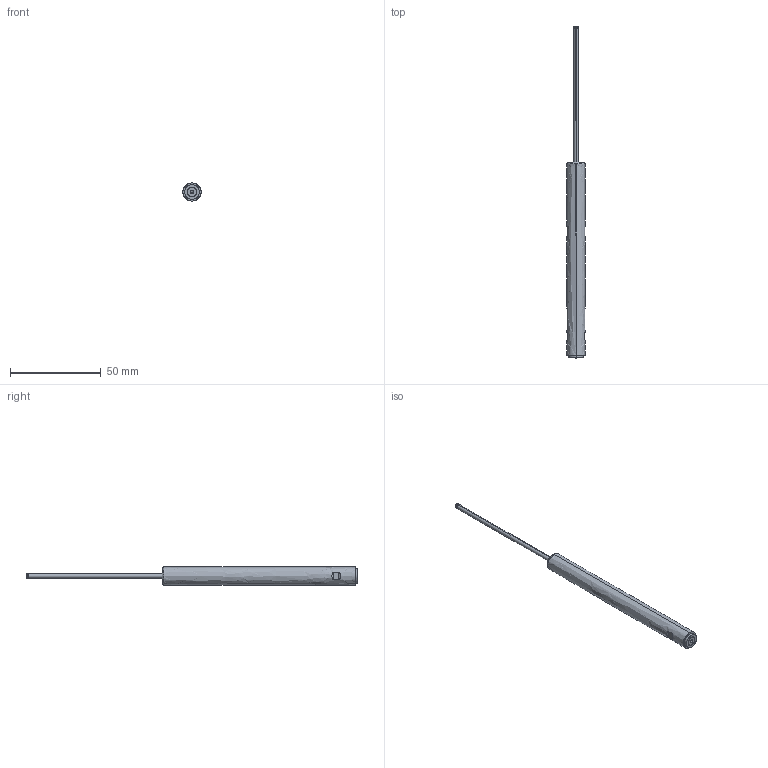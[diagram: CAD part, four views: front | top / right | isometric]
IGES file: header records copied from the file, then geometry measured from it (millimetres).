
Start section: SolidWorks IGES file using analytic representation for surfaces
Bounding box: 10 x 183 x 10 mm (x, y, z)
Surface area: 4418.5 mm2 (no closed solid volume)
Topology: 0 solids, 0 shells, 67 faces, 830 edges, 828 vertices
Faces by surface type: bspline 38, revolution 29
